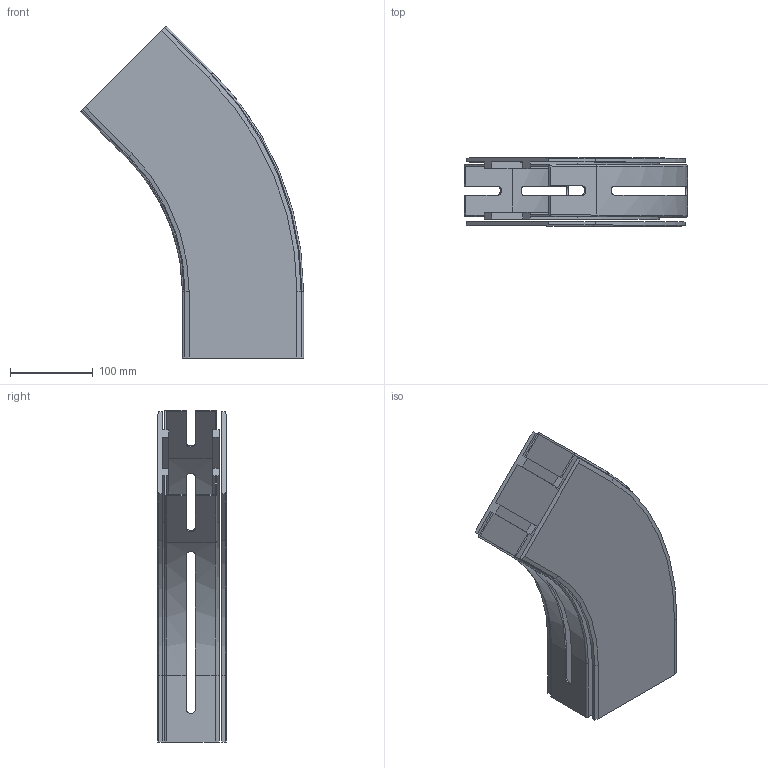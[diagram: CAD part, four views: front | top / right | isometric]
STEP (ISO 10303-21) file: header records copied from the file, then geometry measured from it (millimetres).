
FILE_DESCRIPTION((''),'2;1');
FILE_NAME('C:\Vault Klient\Projekt\Koncept konstruktion\Serie 540 Balk\540-5200.stp','2010-11-24T15:25:04',('Mathias'),(''),'Autodesk Inventor 2011','Autodesk Inventor 2011','');
FILE_SCHEMA(('AUTOMOTIVE_DESIGN { 1 0 10303 214 1 1 1 1 }'));
Length unit declared in the file: millimetre
Products named in the file (1): 540-5200
Bounding box: 269.06 x 82 x 400.32 mm (x, y, z)
Volume: 893677.5 mm3; surface area: 462773.1 mm2
Topology: 2 solids, 2 shells, 159 faces, 446 edges, 292 vertices
Faces by surface type: plane 103, cylinder 30, bspline 16, cone 6, torus 4
Entity records: 5362 total; most frequent: CARTESIAN_POINT 1206, ORIENTED_EDGE 892, DIRECTION 782, EDGE_CURVE 446, VECTOR 334, LINE 334, VERTEX_POINT 292, AXIS2_PLACEMENT_3D 224
